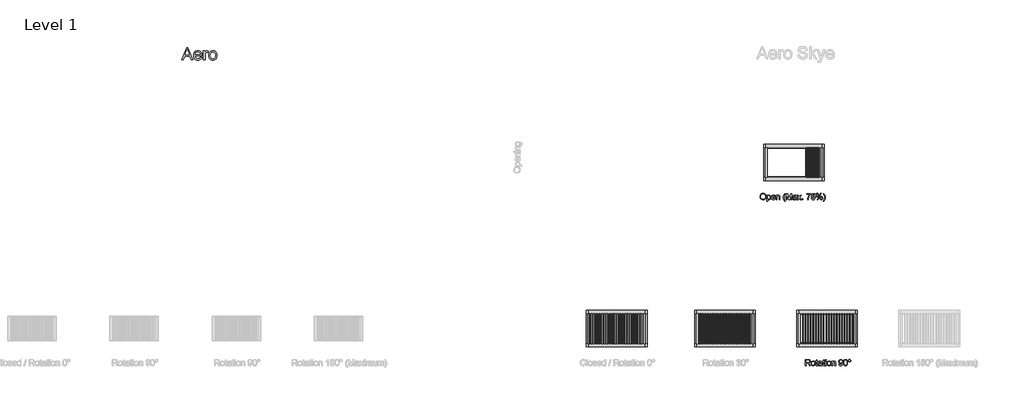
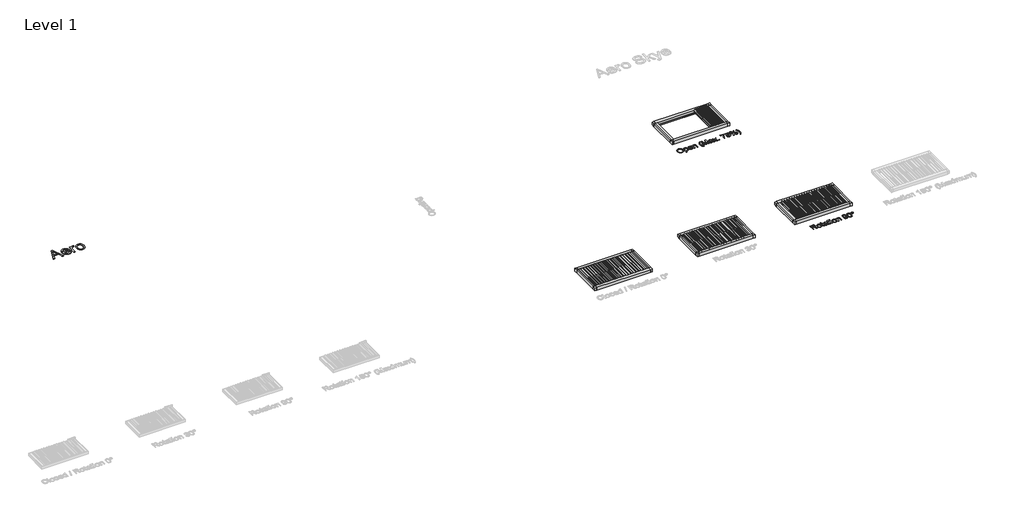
# One storey, part 11 of 12: 7 proxies.
"""IFC4 building model written with IfcOpenShell, lengths in millimetres."""

from ifc_helpers import new_model, si_unit, origin, origin_with_axes, place, context, project, spatial, polyline, outline, extrude, transform, mapped, element, save
from components import generic_models_02a216a0, generic_models_7025a045, generic_models_e1cb7084, generic_models_4a002583

model = new_model("IFC4")

# Units and contexts
model_context = context("Model", 3, world=origin())
ifc_project = project(units=[si_unit("LENGTHUNIT", "METRE", prefix="MILLI")], contexts=[model_context])

# Site, building, storey
site = spatial("IfcSite", under=ifc_project)
building = spatial("IfcBuilding", under=site)
storey = spatial("IfcBuildingStorey", under=building, Name="Level 1", Elevation=0.0)

# Proxies
placement = place(None, origin())
generic_models_shape = generic_models_02a216a0(model_context)
element("IfcBuildingElementProxy", 1, Name="Renson_Aero_Skye_Patio covers : Aero Skye - Single", ObjectType="Renson_Aero_Skye_Patio covers : Aero Skye - Single", at=placement, inside=storey, context=model_context, shape_type="MappedRepresentation", body=[
    mapped(generic_models_shape, transform((38893.1736148, 17701.5921629, 0.0), x_axis=(1.0, 0.0, 0.0), y_axis=(0.0, 1.0, 0.0), z_axis=(0.0, 0.0, 1.0))),
])
generic_models_2_shape = generic_models_7025a045(model_context)
element("IfcBuildingElementProxy", 2, Name="Renson_Aero_Skye_Patio covers : Aero Skye - Single", ObjectType="Renson_Aero_Skye_Patio covers : Aero Skye - Single", at=placement, inside=storey, context=model_context, shape_type="MappedRepresentation", body=[
    mapped(generic_models_2_shape, transform((53492.8188641, 31383.668518, 0.0), x_axis=(1.0, 0.0, 0.0), y_axis=(0.0, 1.0, 0.0), z_axis=(0.0, 0.0, 1.0))),
])
generic_models_3_shape = generic_models_e1cb7084(model_context)
element("IfcBuildingElementProxy", 3, Name="Renson_Aero_Skye_Patio covers : Aero Skye - Single", ObjectType="Renson_Aero_Skye_Patio covers : Aero Skye - Single", at=placement, inside=storey, context=model_context, shape_type="MappedRepresentation", body=[
    mapped(generic_models_3_shape, transform((47813.516609, 17701.5921629, 0.0), x_axis=(1.0, 0.0, 0.0), y_axis=(0.0, 1.0, 0.0), z_axis=(0.0, 0.0, 1.0))),
])
generic_models_4_shape = generic_models_4a002583(model_context)
element("IfcBuildingElementProxy", 4, Name="Renson_Aero_Skye_Patio covers : Aero Skye - Single", ObjectType="Renson_Aero_Skye_Patio covers : Aero Skye - Single", at=placement, inside=storey, context=model_context, shape_type="MappedRepresentation", body=[
    mapped(generic_models_4_shape, transform((56233.8596032, 17701.5921629, 0.0), x_axis=(1.0, 0.0, 0.0), y_axis=(0.0, 1.0, 0.0), z_axis=(0.0, 0.0, 1.0))),
])
element("IfcBuildingElementProxy", 5, Name="1000mm Arial", ObjectType="1000mm Arial", at=placement, inside=storey, context=model_context, shape_type="SweptSolid", body=[
    extrude(outline(polyline([(3038.1508384, 39841.8832107), (3439.1422131, 40846.4463122), (3546.0732464, 40846.4463122), (3947.0646211, 39841.8832107), (3814.3818482, 39841.8832107), (3699.3574111, 40155.8091799), (3285.6127938, 40155.8091799), (3170.8336113, 39841.8832107), (3038.1508384, 39841.8832107)]), holes=[polyline([(3331.7206706, 40281.3795676), (3653.494789, 40281.3795676), (3562.9958182, 40528.3510137), (3492.6077298, 40720.8759245), (3430.0677906, 40549.9334241), (3331.7206706, 40281.3795676)])]), origin_with_axes(), (0.0, 0.0, 1.0), 5.0),
    extrude(outline(polyline([(4582.0289448, 40061.6313891), (4705.1467859, 40045.9350907), (4686.269841, 39996.6235749), (4660.7863486, 39953.1675142), (4628.6963088, 39915.5669086), (4589.9997214, 39883.8217581), (4545.0951254, 39858.606513), (4494.3810595, 39840.5956237), (4437.8575238, 39829.7890901), (4375.5245182, 39826.1869122), (4335.5058549, 39827.7408304), (4297.6101773, 39832.4025851), (4261.8374854, 39840.1721762), (4228.1877791, 39851.0496037), (4196.6610586, 39865.0348677), (4167.2573237, 39882.1279681), (4139.9765745, 39902.328905), (4114.8188109, 39925.6376782), (4092.2285572, 39951.7515517), (4072.6503373, 39980.3677892), (4056.0841512, 40011.4863907), (4042.5299989, 40045.1073562), (4031.9878805, 40081.2306856), (4024.4577959, 40119.8563791), (4019.9397451, 40160.9844365), (4018.4337282, 40204.6148579), (4019.9550735, 40249.7302197), (4024.5191096, 40292.2474149), (4032.1258362, 40332.1664434), (4042.7752536, 40369.4873054), (4056.4673616, 40404.2100008), (4073.2021602, 40436.3345296), (4092.9796496, 40465.8608918), (4115.7998296, 40492.7890875), (4141.0457315, 40516.8163803), (4168.1003866, 40537.6400341), (4196.9637948, 40555.2600488), (4227.6359561, 40569.6764245), (4260.1168706, 40580.8891611), (4294.4065383, 40588.8982587), (4330.504959, 40593.7037173), (4368.412133, 40595.3055368), (4405.0796212, 40593.7075494), (4440.0341589, 40588.9135871), (4473.2757461, 40580.92365), (4504.8043827, 40569.7377381), (4534.6200687, 40555.3558514), (4562.7228043, 40537.7779898), (4589.1125893, 40517.0041534), (4613.7894237, 40493.0343421), (4636.1210105, 40466.1674602), (4655.4750523, 40436.7024116), (4671.8515493, 40404.6391965), (4685.2505013, 40369.9778148), (4695.6719084, 40332.7182664), (4703.1157707, 40292.8605515), (4709.0708605, 40205.3506219), (4708.3350965, 40171.5054784), (4144.0041159, 40171.5054784), (4151.2774495, 40121.3968849), (4165.7398104, 40077.5116286), (4187.3911987, 40039.8497093), (4216.2316143, 40008.4111272), (4250.6669019, 39983.6250777), (4289.1029062, 39965.9207567), (4331.5396272, 39955.2981641), (4377.9770648, 39951.7572999), (4412.7112565, 39953.3974405), (4444.8089606, 39958.3178621), (4474.2701771, 39966.518565), (4501.0949059, 39977.9995489), (4525.2831471, 39993.0673823), (4546.8349006, 40012.0286334), (4565.7501665, 40034.8833024), (4582.0289448, 40061.6313891)]), holes=[polyline([(4144.0041159, 40297.075866), (4583.5004728, 40297.075866), (4577.0472095, 40332.6071354), (4566.5165874, 40363.4172525), (4551.9086065, 40389.5062173), (4533.2232668, 40410.8740299), (4498.9795844, 40436.6257695), (4460.0147498, 40455.0198693), (4416.3287628, 40466.0563292), (4367.9216236, 40469.7351491), (4323.76812, 40466.7997574), (4283.2781079, 40457.9935821), (4246.4515873, 40443.3166233), (4213.2885583, 40422.7688811), (4185.4598182, 40397.3007171), (4164.6361645, 40367.8624933), (4150.817597, 40334.4542096), (4144.0041159, 40297.075866)])]), origin_with_axes(), (0.0, 0.0, 1.0), 5.0),
    extrude(outline(polyline([(4834.6412482, 39841.8832107), (4834.6412482, 40579.6092383), (4944.5153374, 40579.6092383), (4944.5153374, 40470.4709131), (4985.1049842, 40533.7466163), (5004.2041911, 40555.635595), (5022.5063204, 40571.0253251), (5060.0302839, 40589.2354839), (5100.9878127, 40595.3055368), (5132.1351549, 40592.883647), (5163.5277519, 40585.6179776), (5195.1656035, 40573.5085286), (5227.0487097, 40556.5553), (5185.1101623, 40443.9834094), (5140.9643228, 40463.2972142), (5118.8914031, 40468.1256654), (5096.8184834, 40469.7351491), (5077.5736565, 40468.186979), (5059.3251767, 40463.5424689), (5042.073044, 40455.8016185), (5025.8172583, 40444.9644281), (5011.1709564, 40431.3834511), (4998.7472749, 40415.4112412), (4980.5677729, 40376.2931223), (4965.3006701, 40306.1502886), (4960.2116359, 40229.6308336), (4960.2116359, 39841.8832107), (4834.6412482, 39841.8832107)])), origin_with_axes(), (0.0, 0.0, 1.0), 5.0),
    extrude(outline(polyline([(5274.1376051, 40210.7462245), (5275.8352272, 40260.1688713), (5280.9280936, 40306.2882443), (5289.4162042, 40349.1043436), (5301.2995591, 40388.6171692), (5316.5781582, 40424.826721), (5335.2520015, 40457.732999), (5357.3210891, 40487.3360033), (5382.785421, 40513.6357339), (5430.6407372, 40549.3662726), (5483.4624603, 40574.8880861), (5541.2505904, 40590.2011741), (5604.0051274, 40595.3055368), (5639.4731671, 40593.7516186), (5673.2819056, 40589.0898639), (5705.4313431, 40581.3202728), (5735.9214795, 40570.4428453), (5764.7523148, 40556.4575813), (5791.9238491, 40539.3644809), (5817.4360822, 40519.1635441), (5841.2890143, 40495.8547708), (5862.8733408, 40469.806043), (5881.579757, 40441.3852429), (5897.408263, 40410.5923702), (5910.3588589, 40377.4274252), (5920.4315446, 40341.8904076), (5927.6263201, 40303.9813177), (5933.3821404, 40221.0469204), (5930.8376233, 40153.8318142), (5923.2040719, 40094.1889457), (5910.4814862, 40042.118315), (5892.6698663, 39997.619922), (5869.9914741, 39959.1839177), (5842.6685718, 39925.3004531), (5810.7011593, 39895.9695282), (5774.0892365, 39871.191143), (5734.2583463, 39851.501792), (5692.6340314, 39837.4379699), (5649.2162918, 39828.9996766), (5604.0051274, 39826.1869122), (5567.9776006, 39827.7350823), (5533.7166737, 39832.3795925), (5501.2223469, 39840.1204428), (5470.49462, 39850.9576332), (5441.5334931, 39864.8911638), (5414.3389663, 39881.9210345), (5388.9110394, 39902.0472453), (5365.2497126, 39925.2697962), (5343.8953124, 39951.4047463), (5325.3881655, 39980.2681545), (5309.7282721, 40011.8600209), (5296.915632, 40046.1803453), (5286.9502452, 40083.2291279), (5279.8321118, 40123.0063687), (5274.1376051, 40210.7462245)]), holes=[polyline([(5399.7079928, 40210.9914792), (5403.3408275, 40150.0840163), (5414.2393316, 40097.3465995), (5432.4035051, 40052.7792286), (5457.833348, 40016.3819037), (5488.7660924, 39988.1086395), (5523.4389705, 39967.9134509), (5561.8519821, 39955.7963376), (5604.0051274, 39951.7572999), (5645.9436749, 39955.8193303), (5684.2034024, 39968.0054214), (5718.7843099, 39988.3155732), (5749.6863975, 40016.7497857), (5775.1162404, 40053.5073284), (5793.2804139, 40098.7874706), (5804.1789181, 40152.5902124), (5807.8117528, 40214.9155538), (5804.1559254, 40273.8916361), (5793.1884434, 40325.2494955), (5774.9093068, 40368.9891319), (5749.3185155, 40405.1105453), (5718.3014648, 40433.3838095), (5683.7435499, 40453.5789982), (5645.6447708, 40465.6961114), (5604.0051274, 40469.7351491), (5561.8519821, 40465.7114398), (5523.4389705, 40453.6403118), (5488.7660924, 40433.5217652), (5457.833348, 40405.3558), (5432.4035051, 40369.065774), (5414.2393316, 40324.5750452), (5403.3408275, 40271.8836136), (5399.7079928, 40210.9914792)])]), origin_with_axes(), (0.0, 0.0, 1.0), 5.0),
])
element("IfcBuildingElementProxy", 6, Name="500mm Arial", ObjectType="500mm Arial", at=placement, inside=storey, context=model_context, shape_type="SweptSolid", body=[
    extrude(outline(polyline([(50712.3756983, 28572.4025398), (50716.560356, 28631.3173085), (50729.1143291, 28683.4722455), (50750.0376176, 28728.8673509), (50779.3302215, 28767.5026246), (50815.237037, 28798.3510627), (50856.0029606, 28820.3856614), (50901.6279922, 28833.6064206), (50952.1121319, 28838.0133403), (50985.903626, 28835.9440041), (51017.9936658, 28829.7359954), (51048.3822515, 28819.3893143), (51077.0693829, 28804.9039607), (51103.2503182, 28786.7167946), (51126.1203156, 28765.2646758), (51145.679375, 28740.5476042), (51161.9274964, 28712.56558), (51174.6960674, 28681.9547323), (51183.8164752, 28649.3511905), (51189.2887198, 28614.7549545), (51191.1128014, 28578.1660244), (51189.1929172, 28541.0942492), (51183.4332647, 28506.0304965), (51173.8338439, 28472.9747664), (51160.3946548, 28441.9270588), (51143.433762, 28413.7074441), (51123.2692301, 28389.1359925), (51099.9010592, 28368.2127041), (51073.3292493, 28350.9375787), (51044.5999647, 28337.4179154), (51014.75937, 28327.761013), (50983.807465, 28321.9668716), (50951.7442499, 28320.0354911), (50917.3626117, 28322.1699731), (50884.8510404, 28328.5734191), (50854.2095359, 28339.245829), (50825.4380982, 28354.187203), (50799.2878197, 28372.8188932), (50776.5097928, 28394.562252), (50757.1040176, 28419.4172793), (50741.070494, 28447.3839751), (50728.5165209, 28477.339533), (50719.5493972, 28508.1611464), (50714.1691231, 28539.8488153), (50712.3756983, 28572.4025398)]), holes=[polyline([(50775.1608922, 28571.7894031), (50778.2993855, 28530.1650882), (50787.7148653, 28493.2159403), (50803.4073316, 28460.9419595), (50825.3767845, 28433.3431456), (50852.0827181, 28411.2395691), (50881.9846265, 28395.4513001), (50915.0825098, 28385.9783387), (50951.3763679, 28382.8206849), (50988.2910268, 28386.0089956), (51021.7797847, 28395.5739274), (51051.8426415, 28411.5154806), (51078.4795972, 28433.8336549), (51100.2881017, 28462.0149486), (51115.865605, 28495.5458596), (51125.2121069, 28534.426388), (51128.3276076, 28578.6565337), (51122.9933186, 28634.2373718), (51106.9904518, 28682.276629), (51095.0917685, 28703.1654286), (51080.7328744, 28721.5633604), (51063.9137695, 28737.4704246), (51044.6344536, 28750.8866211), (51023.4927352, 28761.5360385), (51001.0864225, 28769.1427651), (50977.4155153, 28773.7068011), (50952.4800139, 28775.2281465), (50917.446918, 28772.2965868), (50884.9430109, 28763.5019079), (50854.9682925, 28748.8441096), (50827.5227628, 28728.3231921), (50804.6144444, 28700.9504724), (50788.2513598, 28665.7372677), (50778.4335091, 28622.6835779), (50775.1608922, 28571.7894031)])]), origin_with_axes(), (0.0, 0.0, 1.0), 5.0),
    extrude(outline(polyline([(51269.5942937, 28186.6169542), (51269.5942937, 28696.7466542), (51332.3794875, 28696.7466542), (51332.3794875, 28635.1877336), (51352.8582519, 28665.5533267), (51375.789563, 28687.243036), (51402.5223213, 28700.2568615), (51434.4054275, 28704.5948034), (51456.3020705, 28703.0772902), (51476.8651411, 28698.5247505), (51496.0946396, 28690.9371843), (51513.9905658, 28680.3145917), (51530.1620452, 28666.9328841), (51544.2182031, 28651.0679731), (51565.9845545, 28611.8885406), (51579.1363358, 28565.6273797), (51583.5202629, 28515.1355759), (51578.5691844, 28461.440133), (51563.7159488, 28413.4162042), (51552.6948174, 28392.1403622), (51539.4357372, 28373.5010077), (51523.9387081, 28357.4981409), (51506.2037303, 28344.1317618), (51467.4994787, 28326.0595588), (51426.802533, 28320.0354911), (51397.9391248, 28324.0668646), (51372.1720567, 28336.1609852), (51350.1144654, 28354.4171292), (51332.3794875, 28376.934573), (51332.3794875, 28186.6169542), (51269.5942937, 28186.6169542)]), holes=[polyline([(51332.3794875, 28509.3720913), (51334.0771097, 28479.1137972), (51339.169976, 28453.086146), (51347.6580867, 28431.2891378), (51359.5414415, 28413.7227725), (51373.8466862, 28400.2031092), (51389.6004662, 28390.5462068), (51406.8027816, 28384.7520654), (51425.4536323, 28382.8206849), (51444.3727303, 28384.8210433), (51461.8892783, 28390.8221183), (51478.0032761, 28400.8239101), (51492.7147238, 28414.8264185), (51504.9736248, 28433.0289131), (51513.7299827, 28455.6306632), (51518.9837975, 28482.6316688), (51520.7350691, 28514.0319299), (51519.0259506, 28544.0296409), (51513.8985953, 28570.0113068), (51505.3530032, 28591.9769276), (51493.3891741, 28609.9265033), (51479.0494405, 28623.8753623), (51463.3761347, 28633.838833), (51446.3692566, 28639.8169154), (51428.0288063, 28641.8096096), (51409.7458375, 28639.690456), (51392.5435222, 28633.3329952), (51376.4218602, 28622.7372274), (51361.3808515, 28607.9031523), (51348.6927548, 28589.0300396), (51339.6298285, 28566.3171585), (51334.1920728, 28539.764509), (51332.3794875, 28509.3720913)])]), origin_with_axes(), (0.0, 0.0, 1.0), 5.0),
    extrude(outline(polyline([(51912.4067666, 28437.7577296), (51973.9656871, 28429.9095803), (51964.5272147, 28405.2538224), (51951.7854685, 28383.5257921), (51935.7404486, 28364.7254893), (51916.3921549, 28348.8529141), (51893.9398569, 28336.2452915), (51868.5828239, 28327.2398468), (51840.3210561, 28321.83658), (51809.1545533, 28320.0354911), (51770.1973828, 28323.1433275), (51735.4861838, 28332.4668369), (51705.020956, 28348.006019), (51678.8016997, 28369.7608741), (51657.7174628, 28397.1259296), (51642.6572936, 28429.4957131), (51633.6211921, 28466.8702245), (51630.6091583, 28509.249464), (51633.651849, 28553.0657424), (51642.779921, 28591.6856877), (51657.9933743, 28625.1092998), (51679.292209, 28653.3365787), (51705.4424875, 28675.762052), (51735.2102723, 28691.7802472), (51768.5955633, 28701.3911644), (51805.5983607, 28704.5948034), (51841.4093736, 28701.3988286), (51873.7944855, 28691.8109041), (51902.7536963, 28675.8310299), (51928.2870061, 28653.4592061), (51949.1298204, 28625.2932408), (51964.0175448, 28591.9309424), (51972.9501795, 28553.3723108), (51975.9277244, 28509.617346), (51975.5598424, 28492.6947742), (51693.3943521, 28492.6947742), (51697.0310189, 28467.6404775), (51704.2621994, 28445.6978493), (51715.0878935, 28426.8668897), (51729.5081013, 28411.1475986), (51746.7257451, 28398.7545739), (51765.9437473, 28389.9024134), (51787.1621078, 28384.591117), (51810.3808266, 28382.8206849), (51843.7967745, 28386.1009661), (51871.9397471, 28395.9418094), (51894.8097445, 28412.9563517), (51912.4067666, 28437.7577296)]), holes=[polyline([(51693.3943521, 28555.479968), (51913.1425306, 28555.479968), (51904.6505879, 28588.6506612), (51888.0039276, 28612.3790499), (51870.8820864, 28625.2549198), (51851.3996691, 28634.4519696), (51829.5566756, 28639.9701996), (51805.353106, 28641.8096096), (51763.0313481, 28635.938826), (51744.6180879, 28628.6003467), (51728.0365734, 28618.3264755), (51714.1222033, 28605.5923935), (51703.7103764, 28590.8732816), (51696.8010927, 28574.1691398), (51693.3943521, 28555.479968)])]), origin_with_axes(), (0.0, 0.0, 1.0), 5.0),
    extrude(outline(polyline([(52038.7129183, 28327.8836403), (52038.7129183, 28696.7466542), (52101.4981121, 28696.7466542), (52101.4981121, 28645.2431748), (52123.3104488, 28671.2095123), (52149.5067125, 28689.7568963), (52180.0869033, 28700.8853266), (52215.0510213, 28704.5948034), (52245.9990941, 28701.6057622), (52274.3413362, 28692.6386386), (52297.9777544, 28678.8124069), (52314.8083557, 28661.2460416), (52326.2280259, 28639.985528), (52333.6316511, 28615.0768512), (52336.942589, 28554.376322), (52336.942589, 28327.8836403), (52274.1573952, 28327.8836403), (52274.1573952, 28545.9150361), (52272.3486421, 28578.3806222), (52266.9223826, 28601.4652174), (52256.9129267, 28618.0045788), (52241.354584, 28630.8344634), (52221.4123141, 28639.065823), (52198.2510769, 28641.8096096), (52179.1863589, 28640.2691037), (52161.4782058, 28635.6475861), (52145.1266175, 28627.9450569), (52130.1315941, 28617.1615159), (52117.6044457, 28602.0706899), (52108.6564826, 28581.4463055), (52103.2877047, 28555.2883628), (52101.4981121, 28523.5968618), (52101.4981121, 28327.8836403), (52038.7129183, 28327.8836403)])), origin_with_axes(), (0.0, 0.0, 1.0), 5.0),
    extrude(outline(polyline([(52745.046349, 28186.6169542), (52719.7008124, 28219.4121012), (52696.3939552, 28254.8897211), (52655.8962789, 28333.8923796), (52639.9623899, 28376.4593921), (52628.5810407, 28419.7928255), (52621.7522312, 28463.8926796), (52619.4759613, 28508.7589546), (52621.1774156, 28548.191306), (52626.2817782, 28586.7805944), (52634.7890494, 28624.52682), (52646.699229, 28661.4299826), (52664.8020888, 28703.7517405), (52687.2275621, 28745.9815279), (52713.9756488, 28788.1193447), (52745.046349, 28830.1651911), (52792.1352444, 28830.1651911), (52733.3967525, 28730.7144251), (52713.3471838, 28683.5029023), (52698.080081, 28634.3293423), (52686.2158866, 28571.5134916), (52682.2611552, 28508.3910726), (52683.9779378, 28468.1424831), (52689.1282858, 28427.9015578), (52697.712199, 28387.6682967), (52709.7296775, 28347.4426997), (52744.0653304, 28267.0144985), (52792.1352444, 28186.6169542), (52745.046349, 28186.6169542)])), origin_with_axes(), (0.0, 0.0, 1.0), 5.0),
    extrude(outline(polyline([(52862.7685875, 28327.8836403), (52862.7685875, 28830.1651911), (52970.8032667, 28830.1651911), (53073.5649707, 28476.1400844), (53094.2889898, 28402.1958034), (53116.7297915, 28482.271451), (53217.7747128, 28830.1651911), (53325.8093921, 28830.1651911), (53325.8093921, 28327.8836403), (53263.0241982, 28327.8836403), (53263.0241982, 28767.3799972), (53136.8406739, 28327.8836403), (53051.7373057, 28327.8836403), (52925.5537813, 28767.3799972), (52925.5537813, 28327.8836403), (52862.7685875, 28327.8836403)])), origin_with_axes(), (0.0, 0.0, 1.0), 5.0),
    extrude(outline(polyline([(53663.279809, 28374.9725357), (53633.282098, 28349.2514529), (53602.3953388, 28332.4208516), (53569.9144243, 28323.1318312), (53535.1342473, 28320.0354911), (53507.1790478, 28321.8978937), (53482.6650778, 28327.4851015), (53461.5923372, 28336.7971145), (53443.9608262, 28349.8339327), (53430.0387919, 28365.7678216), (53420.0944818, 28383.7710468), (53414.1278956, 28403.8436081), (53412.1390336, 28425.9855057), (53415.1434032, 28452.0131569), (53424.1565121, 28475.6495751), (53438.0593859, 28495.8830848), (53455.73305, 28511.7020106), (53476.5030543, 28523.6581754), (53499.6949485, 28532.3034023), (53554.0188564, 28541.7457069), (53618.2142646, 28551.6785207), (53662.911927, 28563.3281172), (53663.279809, 28577.3076331), (53658.9571955, 28605.3279784), (53645.9893552, 28623.6607645), (53632.914216, 28631.6008842), (53616.9879913, 28637.2723983), (53576.5822855, 28641.8096096), (53539.1809493, 28638.7899115), (53513.0613276, 28629.7308174), (53495.2497077, 28612.9768582), (53482.7723767, 28586.8725649), (53419.9871828, 28594.7207142), (53430.8856869, 28629.0563671), (53447.1491368, 28656.03438), (53470.2950457, 28676.6664286), (53501.8409268, 28691.9641882), (53540.422551, 28701.4371496), (53584.6756893, 28704.5948034), (53627.1200745, 28701.8050316), (53660.7659487, 28693.4357162), (53686.1344779, 28680.8510863), (53703.7468285, 28665.4153709), (53715.4270818, 28646.3314924), (53722.9993195, 28622.8023731), (53726.0650028, 28567.8653285), (53726.0650028, 28489.7517182), (53729.2533135, 28380.6747066), (53733.9744657, 28353.7120221), (53741.7613013, 28327.8836403), (53678.9761074, 28327.8836403), (53668.9206662, 28349.7113054), (53663.279809, 28374.9725357)]), holes=[polyline([(53663.279809, 28500.5429234), (53621.0960069, 28490.0889434), (53561.989633, 28481.2904323), (53507.9722934, 28471.1123638), (53493.9161355, 28464.1532627), (53483.5081407, 28454.557674), (53477.0702058, 28443.0613617), (53474.9242275, 28430.4000897), (53479.5993945, 28411.7300784), (53493.6248955, 28396.4323188), (53516.6941623, 28386.2235934), (53548.5006265, 28382.8206849), (53582.2231427, 28386.576147), (53612.0215843, 28397.8425331), (53636.1791687, 28414.4432081), (53652.9791131, 28434.2015369), (53660.4287235, 28454.557674), (53662.911927, 28482.7619603), (53663.279809, 28500.5429234)])]), origin_with_axes(), (0.0, 0.0, 1.0), 5.0),
    extrude(outline(polyline([(53773.1538982, 28327.8836403), (53907.3081991, 28513.2961659), (53781.0020474, 28696.7466542), (53856.5404838, 28696.7466542), (53917.4862677, 28608.4549753), (53945.9358086, 28566.7616825), (53970.5839023, 28600.8520808), (54039.990972, 28696.7466542), (54115.5294084, 28696.7466542), (53982.8466355, 28513.2961659), (54110.6243151, 28327.8836403), (54035.0858788, 28327.8836403), (53958.1985418, 28439.3518849), (53944.0963986, 28459.7080219), (53848.6923346, 28327.8836403), (53773.1538982, 28327.8836403)])), origin_with_axes(), (0.0, 0.0, 1.0), 5.0),
    extrude(outline(polyline([(54181.2576582, 28327.8836403), (54181.2576582, 28390.6688342), (54244.042852, 28390.6688342), (54244.042852, 28327.8836403), (54181.2576582, 28327.8836403)])), origin_with_axes(), (0.0, 0.0, 1.0), 5.0),
    extrude(outline(polyline([(54542.2725228, 28759.531848), (54542.2725228, 28822.3170419), (54871.8947905, 28822.3170419), (54871.8947905, 28771.5493265), (54824.913194, 28712.090399), (54778.39145, 28636.4753206), (54737.3572792, 28551.6018787), (54706.838402, 28464.3678605), (54691.8778675, 28399.0994632), (54683.5392089, 28327.8836403), (54620.7540151, 28327.8836403), (54627.5445036, 28392.6002147), (54645.7086771, 28469.5182085), (54674.7560263, 28551.0500557), (54714.1960419, 28629.60819), (54760.2426049, 28700.6247435), (54809.1095966, 28759.531848), (54542.2725228, 28759.531848)])), origin_with_axes(), (0.0, 0.0, 1.0), 5.0),
    extrude(outline(polyline([(54926.8318351, 28461.3021773), (54989.6170289, 28469.1503265), (55001.1439981, 28431.4577504), (55010.1264502, 28416.6236754), (55021.2548805, 28404.464409), (55034.5062965, 28394.9952797), (55049.8577056, 28388.231616), (55086.860503, 28382.8206849), (55110.7728327, 28384.7022481), (55131.8647337, 28390.3469374), (55150.1362062, 28399.754753), (55165.58725, 28412.9256949), (55177.8729758, 28429.2083053), (55186.6484942, 28447.9511265), (55191.9138052, 28469.1541586), (55193.6689089, 28492.8174015), (55192.0249363, 28515.1815611), (55187.0930183, 28535.0625173), (55178.8731549, 28552.46027), (55167.3653463, 28567.3748192), (55152.5312712, 28579.3386482), (55134.3326088, 28587.8842404), (55112.7693589, 28593.0115957), (55087.8415216, 28594.7207142), (55057.3839581, 28591.992256), (55032.720536, 28583.8068816), (55013.0235209, 28571.268237), (54997.4651782, 28555.479968), (54934.6799843, 28563.3281172), (54989.6170289, 28822.3170419), (55232.9096551, 28822.3170419), (55232.9096551, 28759.531848), (55040.3847443, 28759.531848), (55013.5293586, 28621.2082178), (55035.6865846, 28637.0884573), (55058.3803052, 28648.4314855), (55081.6105203, 28655.2373024), (55105.3772301, 28657.505908), (55135.9535888, 28654.6931436), (55164.0390799, 28646.2548503), (55189.6337033, 28632.1910282), (55212.737459, 28612.5016773), (55231.8634906, 28588.3900782), (55245.5249418, 28561.0595116), (55253.7218125, 28530.5099776), (55256.4541028, 28496.7414761), (55253.9938919, 28464.2145764), (55246.6132594, 28433.9562823), (55234.3122052, 28405.9665938), (55217.0907293, 28380.245511), (55191.0017645, 28353.9036273), (55160.5595294, 28335.0879961), (55125.764024, 28323.7986173), (55086.6152483, 28320.0354911), (55054.214808, 28322.4535488), (55024.9490289, 28329.7077219), (54998.8179109, 28341.7980104), (54975.8214541, 28358.7244143), (54956.6877583, 28379.6438706), (54942.1449231, 28403.7133166), (54932.1929487, 28430.9327521), (54926.8318351, 28461.3021773)])), origin_with_axes(), (0.0, 0.0, 1.0), 5.0),
    extrude(outline(polyline([(55421.3878639, 28320.0354911), (55699.751907, 28838.0133403), (55752.1137776, 28838.0133403), (55473.7497346, 28320.0354911), (55421.3878639, 28320.0354911)])), origin_with_axes(), (0.0, 0.0, 1.0), 5.0),
    extrude(outline(polyline([(55648.8615643, 28457.0102206), (55650.4672159, 28483.1873239), (55655.2841708, 28507.2720982), (55663.3124289, 28529.2645438), (55674.5519903, 28549.1646604), (55688.8572349, 28565.6618687), (55706.082543, 28577.4455888), (55726.2279143, 28584.5158209), (55749.293349, 28586.8725649), (55770.714811, 28584.7534114), (55790.2202209, 28578.3959506), (55807.8095788, 28567.8001828), (55823.4828847, 28552.9661077), (55836.3587545, 28534.0240171), (55845.5558044, 28511.1042023), (55851.0740343, 28484.2066636), (55852.9134443, 28453.3314007), (55851.0548738, 28423.1114276), (55845.4791623, 28396.5856029), (55836.1863098, 28373.7539266), (55823.1763163, 28354.6163986), (55807.4225363, 28339.4872516), (55789.8983242, 28328.680718), (55770.60368, 28322.1967978), (55749.5386036, 28320.0354911), (55728.8567377, 28322.1776373), (55709.9759607, 28328.6040759), (55692.8962727, 28339.3148069), (55677.6176736, 28354.3098303), (55665.0368758, 28373.5814819), (55656.0505916, 28397.1220975), (55650.6588211, 28424.9316771), (55648.8615643, 28457.0102206)]), holes=[polyline([(55750.8875043, 28539.7836696), (55729.1518097, 28535.0318605), (55711.5241308, 28520.7764331), (55704.7106497, 28509.287785), (55699.8438774, 28493.829077), (55695.9504597, 28451.0014814), (55699.8898627, 28411.8527057), (55704.8141165, 28397.3137027), (55711.7080718, 28386.1316229), (55729.2897655, 28371.8761956), (55750.5196223, 28367.1243865), (55772.5312283, 28371.8761956), (55790.2508778, 28386.1316229), (55797.0643589, 28397.5972784), (55801.9311311, 28412.9870086), (55805.8245489, 28455.5386927), (55801.8851459, 28495.1933061), (55796.9608921, 28509.8127833), (55790.0669368, 28520.9603741), (55772.3932726, 28535.0778457), (55750.8875043, 28539.7836696)])]), origin_with_axes(), (0.0, 0.0, 1.0), 5.0),
    extrude(outline(polyline([(55319.2392966, 28708.150996), (55320.8449482, 28734.1786472), (55325.6619031, 28758.1829474), (55333.6901612, 28780.1638966), (55344.9297226, 28800.1214948), (55359.2196389, 28816.6991772), (55376.3989616, 28828.5403789), (55396.4676909, 28835.6451), (55419.4258266, 28838.0133403), (55440.9545876, 28835.8941867), (55460.5366396, 28829.536726), (55478.1719827, 28818.9409581), (55493.860617, 28804.1068831), (55506.7364868, 28785.1647924), (55515.9335367, 28762.2449777), (55521.4517666, 28735.3474389), (55523.2911766, 28704.4721761), (55521.428774, 28674.252203), (55515.8415662, 28647.7263783), (55506.5295532, 28624.894702), (55493.492735, 28605.757174), (55477.7351229, 28590.628027), (55460.2607281, 28579.8214934), (55441.0695507, 28573.3375732), (55420.1615906, 28571.1762665), (55399.4222431, 28573.3069164), (55380.4916488, 28579.698866), (55363.3698076, 28590.3521155), (55348.0567196, 28605.2666647), (55335.449097, 28624.4808347), (55326.4436523, 28648.0329466), (55321.0403855, 28675.9230004), (55319.2392966, 28708.150996)]), holes=[polyline([(55421.1426093, 28790.9244449), (55399.5755273, 28786.1726358), (55381.9631768, 28771.9172085), (55375.1228709, 28760.4285604), (55370.2369382, 28744.9698524), (55366.328192, 28702.1422568), (55370.2829234, 28662.7635549), (55375.2263377, 28648.2130555), (55382.1471178, 28637.0884573), (55399.8054535, 28622.9709857), (55421.1426093, 28618.2651619), (55442.8936322, 28623.016971), (55460.5672964, 28637.2723983), (55467.4076023, 28648.7380538), (55472.293535, 28664.1277839), (55476.2022812, 28706.679468), (55472.2475498, 28746.3340814), (55467.3041355, 28760.9535586), (55460.3833554, 28772.1011495), (55442.663706, 28786.2186211), (55421.1426093, 28790.9244449)])]), origin_with_axes(), (0.0, 0.0, 1.0), 5.0),
    extrude(outline(polyline([(55962.7875335, 28186.6169542), (55915.6986381, 28186.6169542), (55963.7685522, 28267.0144985), (55998.104205, 28347.4426997), (56010.1216835, 28387.6682967), (56018.7055968, 28427.9015578), (56023.8559447, 28468.1424831), (56025.5727273, 28508.3910726), (56021.6179959, 28571.0536391), (56009.7538016, 28633.2256963), (55994.7626102, 28682.4912269), (55974.805012, 28729.7334064), (55915.6986381, 28830.1651911), (55962.7875335, 28830.1651911), (55993.8582337, 28788.1193447), (56020.6063204, 28745.9815279), (56043.0317937, 28703.7517405), (56061.1346535, 28661.4299826), (56073.0448331, 28624.52682), (56081.5521043, 28586.7805944), (56086.656467, 28548.191306), (56088.3579212, 28508.7589546), (56086.070155, 28463.8926796), (56079.2068566, 28419.7928255), (56067.7680258, 28376.4593921), (56051.7536627, 28333.8923796), (56011.2100011, 28254.8897211), (55962.7875335, 28186.6169542)])), origin_with_axes(), (0.0, 0.0, 1.0), 5.0),
])
element("IfcBuildingElementProxy", 7, Name="500mm Arial", ObjectType="500mm Arial", at=placement, inside=storey, context=model_context, shape_type="SweptSolid", body=[
    extrude(outline(polyline([(54435.3202558, 14645.8072853), (54435.3202558, 15148.088836), (54651.7574963, 15148.088836), (54709.9288368, 15144.701256), (54752.2505947, 15134.5385159), (54783.1833391, 15115.7765341), (54807.1876393, 15086.5912292), (54822.5926978, 15050.4008379), (54827.7277173, 15010.6235972), (54825.6008996, 14984.8258723), (54819.2204462, 14961.1434688), (54808.5863573, 14939.5763869), (54793.6986328, 14920.1246264), (54774.3656675, 14903.4089882), (54750.3958563, 14890.0502733), (54721.789199, 14880.0484815), (54688.5456958, 14873.403613), (54709.2390581, 14859.8839496), (54724.2302494, 14846.5482273), (54775.120592, 14781.9236235), (54858.8750596, 14645.8072853), (54785.9117972, 14645.8072853), (54720.5514294, 14749.9178899), (54673.3399067, 14818.8344504), (54655.7888699, 14838.9300043), (54640.1692135, 14851.3920069), (54610.3094582, 14863.3481718), (54573.8891407, 14865.5554637), (54498.1054497, 14865.5554637), (54498.1054497, 14645.8072853), (54435.3202558, 14645.8072853)]), holes=[polyline([(54498.1054497, 14928.3406576), (54638.6363718, 14928.3406576), (54678.9960924, 14930.563278), (54710.3120472, 14937.2311391), (54733.8871517, 14948.7887652), (54751.0243214, 14965.6806801), (54761.462973, 14986.1134592), (54764.9425235, 15008.2936779), (54763.2832224, 15024.3501941), (54758.3053192, 15038.919854), (54750.0088138, 15052.0026574), (54738.3937062, 15063.5986045), (54723.1917492, 15073.0945585), (54704.1346954, 15079.8773828), (54654.4552976, 15085.3036422), (54498.1054497, 15085.3036422), (54498.1054497, 14928.3406576)])]), origin_with_axes(), (0.0, 0.0, 1.0), 5.0),
    extrude(outline(polyline([(54914.0573589, 14830.2387922), (54917.4526031, 14878.0098021), (54927.6383359, 14919.1742645), (54944.6145571, 14953.7321795), (54968.3812668, 14981.6835469), (54992.3089249, 14999.5488163), (55018.7197865, 15012.309723), (55047.6138515, 15019.966267), (55078.9911201, 15022.5184484), (55113.6295092, 15019.4106119), (55144.9492961, 15010.0871026), (55172.9504809, 14994.5479204), (55197.6330635, 14972.7930653), (55217.7784348, 14945.5583014), (55232.1679858, 14913.5793925), (55240.8017164, 14876.8563388), (55243.6796266, 14835.3891401), (55238.5905923, 14771.9601528), (55232.2292995, 14745.9248374), (55223.3234895, 14723.6756409), (55211.9842934, 14704.4576388), (55198.3228422, 14687.5159065), (55182.339136, 14672.850444), (55164.0331746, 14660.4612514), (55123.3055721, 14643.5846649), (55078.9911201, 14637.9591361), (55043.8468932, 14641.0554762), (55012.2358663, 14650.3444966), (54984.1580395, 14665.8261972), (54959.6134126, 14687.5005781), (54939.6826391, 14714.9997572), (54925.4463723, 14747.9558526), (54916.9046122, 14786.3688643), (54914.0573589, 14830.2387922)]), holes=[polyline([(54976.8425527, 14830.3614195), (54978.6589701, 14799.9076881), (54984.1082221, 14773.5389797), (54993.1903089, 14751.2552943), (55005.9052303, 14733.0566318), (55021.3716026, 14718.9199997), (55038.7080416, 14708.8224054), (55057.9145474, 14702.7638488), (55078.9911201, 14700.7443299), (55099.9603938, 14702.7753451), (55119.0902575, 14708.8683906), (55136.3807113, 14719.0234665), (55151.8317551, 14733.2405728), (55164.5466766, 14751.6193442), (55173.6287633, 14774.2594153), (55179.0780154, 14801.1607862), (55180.8944327, 14832.3234568), (55179.0665191, 14861.811498), (55173.5827781, 14887.4904277), (55164.4432097, 14909.3602459), (55151.6478141, 14927.4209526), (55136.1392887, 14941.5575847), (55118.8603313, 14951.655179), (55099.8109417, 14957.7137356), (55078.9911201, 14959.7332545), (55057.9145474, 14957.7213998), (55038.7080416, 14951.6858359), (55021.3716026, 14941.6265626), (55005.9052303, 14927.5435799), (54993.1903089, 14909.3985669), (54984.1082221, 14887.1532025), (54978.6589701, 14860.8074867), (54976.8425527, 14830.3614195)])]), origin_with_axes(), (0.0, 0.0, 1.0), 5.0),
    extrude(outline(polyline([(55447.7315066, 14698.1691559), (55455.5796558, 14643.9678753), (55408.6133877, 14637.9591361), (55378.477721, 14640.5649669), (55356.0062624, 14648.3824593), (55340.126023, 14660.4305946), (55329.7640134, 14675.7283542), (55324.0618425, 14702.0012601), (55322.1611189, 14746.974834), (55322.1611189, 14951.8851053), (55275.0722235, 14951.8851053), (55275.0722235, 15014.6702991), (55322.1611189, 15014.6702991), (55322.1611189, 15104.3108786), (55384.9463127, 15141.2217055), (55384.9463127, 15014.6702991), (55447.7315066, 15014.6702991), (55447.7315066, 14951.8851053), (55384.9463127, 14951.8851053), (55384.9463127, 14748.8142439), (55388.2572507, 14716.4406284), (55398.9871422, 14704.9749728), (55420.3856116, 14700.7443299), (55447.7315066, 14698.1691559)])), origin_with_axes(), (0.0, 0.0, 1.0), 5.0),
    extrude(outline(polyline([(55745.9611773, 14692.8961807), (55715.9634663, 14667.1750978), (55685.0767071, 14650.3444966), (55652.5957926, 14641.0554762), (55617.8156157, 14637.9591361), (55589.8604161, 14639.8215387), (55565.3464461, 14645.4087465), (55544.2737056, 14654.7207595), (55526.6421945, 14667.7575777), (55512.7201603, 14683.6914666), (55502.7758501, 14701.6946917), (55496.809264, 14721.7672531), (55494.8204019, 14743.9091507), (55497.8247716, 14769.9368018), (55506.8378804, 14793.57322), (55520.7407542, 14813.8067298), (55538.4144184, 14829.6256555), (55559.1844227, 14841.5818204), (55582.3763168, 14850.2270473), (55636.7002247, 14859.6693518), (55700.8956329, 14869.6021657), (55745.5932953, 14881.2517622), (55745.9611773, 14895.231278), (55741.6385639, 14923.2516233), (55728.6707235, 14941.5844094), (55715.5955843, 14949.5245291), (55699.6693596, 14955.1960432), (55659.2636538, 14959.7332545), (55621.8623176, 14956.7135565), (55595.7426959, 14947.6544623), (55577.931076, 14930.9005031), (55565.453745, 14904.7962099), (55502.6685512, 14912.6443591), (55513.5670553, 14946.980012), (55529.8305051, 14973.958025), (55552.976414, 14994.5900735), (55584.5222951, 15009.8878332), (55623.1039193, 15019.3607946), (55667.3570577, 15022.5184484), (55709.8014429, 15019.7286766), (55743.447317, 15011.3593612), (55768.8158463, 14998.7747312), (55786.4281968, 14983.3390159), (55798.1084501, 14964.2551374), (55805.6806879, 14940.7260181), (55808.7463712, 14885.7889735), (55808.7463712, 14807.6753632), (55811.9346818, 14698.5983516), (55816.655834, 14671.635667), (55824.4426696, 14645.8072853), (55761.6574758, 14645.8072853), (55751.6020346, 14667.6349503), (55745.9611773, 14692.8961807)]), holes=[polyline([(55745.9611773, 14818.4665684), (55703.7773752, 14808.0125883), (55644.6710013, 14799.2140773), (55590.6536617, 14789.0360087), (55576.5975038, 14782.0769077), (55566.189509, 14772.481319), (55559.7515741, 14760.9850066), (55557.6055958, 14748.3237346), (55562.2807628, 14729.6537234), (55576.3062639, 14714.3559637), (55599.3755306, 14704.1472384), (55631.1819948, 14700.7443299), (55664.904511, 14704.4997919), (55694.7029526, 14715.766178), (55718.860537, 14732.3668531), (55735.6604814, 14752.1251819), (55743.1100918, 14772.481319), (55745.5932953, 14800.6856053), (55745.9611773, 14818.4665684)])]), origin_with_axes(), (0.0, 0.0, 1.0), 5.0),
    extrude(outline(polyline([(56028.4945496, 14698.1691559), (56036.3426988, 14643.9678753), (55989.3764308, 14637.9591361), (55959.240764, 14640.5649669), (55936.7693055, 14648.3824593), (55920.889066, 14660.4305946), (55910.5270565, 14675.7283542), (55904.8248856, 14702.0012601), (55902.9241619, 14746.974834), (55902.9241619, 14951.8851053), (55855.8352665, 14951.8851053), (55855.8352665, 15014.6702991), (55902.9241619, 15014.6702991), (55902.9241619, 15104.3108786), (55965.7093558, 15141.2217055), (55965.7093558, 15014.6702991), (56028.4945496, 15014.6702991), (56028.4945496, 14951.8851053), (55965.7093558, 14951.8851053), (55965.7093558, 14748.8142439), (55969.0202937, 14716.4406284), (55979.7501852, 14704.9749728), (56001.1486546, 14700.7443299), (56028.4945496, 14698.1691559)])), origin_with_axes(), (0.0, 0.0, 1.0), 5.0),
    extrude(outline(polyline([(56091.2797434, 15085.3036422), (56091.2797434, 15148.088836), (56154.0649373, 15148.088836), (56154.0649373, 15085.3036422), (56091.2797434, 15085.3036422)])), origin_with_axes(), (0.0, 0.0, 1.0), 5.0),
    extrude(outline(polyline([(56091.2797434, 14645.8072853), (56091.2797434, 15014.6702991), (56154.0649373, 15014.6702991), (56154.0649373, 14645.8072853), (56091.2797434, 14645.8072853)])), origin_with_axes(), (0.0, 0.0, 1.0), 5.0),
    extrude(outline(polyline([(56232.5464296, 14830.2387922), (56235.9416738, 14878.0098021), (56246.1274066, 14919.1742645), (56263.1036278, 14953.7321795), (56286.8703376, 14981.6835469), (56310.7979957, 14999.5488163), (56337.2088572, 15012.309723), (56366.1029223, 15019.966267), (56397.4801908, 15022.5184484), (56432.1185799, 15019.4106119), (56463.4383668, 15010.0871026), (56491.4395516, 14994.5479204), (56516.1221342, 14972.7930653), (56536.2675056, 14945.5583014), (56550.6570565, 14913.5793925), (56559.2907871, 14876.8563388), (56562.1686973, 14835.3891401), (56557.079663, 14771.9601528), (56550.7183702, 14745.9248374), (56541.8125602, 14723.6756409), (56530.4733641, 14704.4576388), (56516.811913, 14687.5159065), (56500.8282067, 14672.850444), (56482.5222453, 14660.4612514), (56441.7946428, 14643.5846649), (56397.4801908, 14637.9591361), (56362.3359639, 14641.0554762), (56330.7249371, 14650.3444966), (56302.6471102, 14665.8261972), (56278.1024833, 14687.5005781), (56258.1717098, 14714.9997572), (56243.935443, 14747.9558526), (56235.393683, 14786.3688643), (56232.5464296, 14830.2387922)]), holes=[polyline([(56295.3316234, 14830.3614195), (56297.1480408, 14799.9076881), (56302.5972928, 14773.5389797), (56311.6793796, 14751.2552943), (56324.3943011, 14733.0566318), (56339.8606733, 14718.9199997), (56357.1971123, 14708.8224054), (56376.4036181, 14702.7638488), (56397.4801908, 14700.7443299), (56418.4494645, 14702.7753451), (56437.5793282, 14708.8683906), (56454.869782, 14719.0234665), (56470.3208258, 14733.2405728), (56483.0357473, 14751.6193442), (56492.117834, 14774.2594153), (56497.5670861, 14801.1607862), (56499.3835034, 14832.3234568), (56497.5555898, 14861.811498), (56492.0718488, 14887.4904277), (56482.9322805, 14909.3602459), (56470.1368848, 14927.4209526), (56454.6283595, 14941.5575847), (56437.349402, 14951.655179), (56418.3000124, 14957.7137356), (56397.4801908, 14959.7332545), (56376.4036181, 14957.7213998), (56357.1971123, 14951.6858359), (56339.8606733, 14941.6265626), (56324.3943011, 14927.5435799), (56311.6793796, 14909.3985669), (56302.5972928, 14887.1532025), (56297.1480408, 14860.8074867), (56295.3316234, 14830.3614195)])]), origin_with_axes(), (0.0, 0.0, 1.0), 5.0),
    extrude(outline(polyline([(56632.8020403, 14645.8072853), (56632.8020403, 15014.6702991), (56695.5872342, 15014.6702991), (56695.5872342, 14963.1668198), (56717.3995708, 14989.1331573), (56743.5958346, 15007.6805412), (56774.1760254, 15018.8089716), (56809.1401434, 15022.5184484), (56840.0882162, 15019.5294071), (56868.4304583, 15010.5622835), (56892.0668764, 14996.7360519), (56908.8974777, 14979.1696866), (56920.317148, 14957.9091729), (56927.7207731, 14933.0004962), (56931.0317111, 14872.299967), (56931.0317111, 14645.8072853), (56868.2465173, 14645.8072853), (56868.2465173, 14863.8386811), (56866.4377641, 14896.3042672), (56861.0115047, 14919.3888624), (56851.0020487, 14935.9282237), (56835.443706, 14948.7581083), (56815.5014362, 14956.989468), (56792.3401989, 14959.7332545), (56773.2754809, 14958.1927487), (56755.5673278, 14953.5712311), (56739.2157396, 14945.8687018), (56724.2207162, 14935.0851608), (56711.6935678, 14919.9943348), (56702.7456047, 14899.3699505), (56697.3768268, 14873.2120078), (56695.5872342, 14841.5205067), (56695.5872342, 14645.8072853), (56632.8020403, 14645.8072853)])), origin_with_axes(), (0.0, 0.0, 1.0), 5.0),
    extrude(outline(polyline([(57205.7169342, 14771.377673), (57268.502128, 14779.2258222), (57279.2320195, 14743.5872539), (57296.7064143, 14719.3223707), (57320.4961167, 14705.3888401), (57350.1719309, 14700.7443299), (57376.7973903, 14703.7333711), (57401.0009599, 14712.7004947), (57421.1118423, 14726.6646821), (57435.4592402, 14744.6449147), (57446.3270874, 14768.2813328), (57455.9993182, 14799.2140773), (57462.8051351, 14834.7146898), (57465.0737408, 14872.0547123), (57464.7058588, 14884.3174455), (57442.9548358, 14857.7686282), (57414.4899664, 14836.7380408), (57381.3652585, 14823.0344365), (57345.6347197, 14818.4665684), (57315.8094533, 14821.2563402), (57288.3830842, 14829.6256555), (57263.3556122, 14843.5745145), (57240.7270374, 14863.1029171), (57221.9765519, 14887.1915236), (57208.583348, 14914.8209943), (57200.5474257, 14945.9913291), (57197.8687849, 14980.7025282), (57200.6777173, 15016.5710228), (57209.1045142, 15048.7606973), (57223.1491758, 15077.271552), (57242.811702, 15102.1035866), (57266.7048712, 15122.2221333), (57293.4414616, 15136.5925237), (57323.0214733, 15145.2147579), (57355.4449062, 15148.088836), (57379.3840606, 15146.4486955), (57402.2732185, 15141.5282738), (57424.1123799, 15133.327571), (57444.9015447, 15121.846587), (57463.9471022, 15107.3305767), (57480.5554414, 15090.0247945), (57494.7265624, 15069.9292405), (57506.4604652, 15047.0439147), (57515.6613472, 15020.0505733), (57522.2334058, 14987.6309725), (57527.4910526, 14906.5129925), (57522.2487342, 14820.5052477), (57515.6958361, 14784.8245263), (57506.5217789, 14754.0259055), (57494.7610514, 14727.358293), (57480.4481425, 14704.0705963), (57463.5830523, 14684.1628154), (57444.1657807, 14667.6349503), (57422.5872024, 14654.6517816), (57399.2381921, 14645.3780896), (57374.1187496, 14639.8138745), (57347.228875, 14637.9591361), (57319.0322529, 14640.1472675), (57293.5487605, 14646.7116619), (57270.7783979, 14657.6523191), (57250.7211649, 14672.9692393), (57233.8828994, 14692.2485551), (57220.7694391, 14715.0763993), (57211.3807841, 14741.4527719), (57205.7169342, 14771.377673)]), holes=[polyline([(57464.7058588, 14982.1740562), (57463.0120688, 15004.6761716), (57457.9306987, 15024.7257403), (57449.4617486, 15042.3227624), (57437.6052185, 15057.4672379), (57422.9435881, 15069.6456648), (57406.0593374, 15078.3445411), (57386.9524663, 15083.5638669), (57365.6229747, 15085.3036422), (57343.6113687, 15083.4297433), (57323.6844273, 15077.8080465), (57305.8421505, 15068.438552), (57290.0845384, 15055.3212596), (57277.2086686, 15039.2225902), (57268.0116187, 15020.9089646), (57262.4933888, 15000.3803829), (57260.6539788, 14977.6368449), (57262.3937541, 14957.2385547), (57267.6130799, 14938.8406229), (57276.3119562, 14922.4430493), (57288.4903831, 14908.0458342), (57303.6425228, 14896.3234277), (57321.2625375, 14887.9502802), (57341.3504273, 14882.9263917), (57363.9061921, 14881.2517622), (57384.9406116, 14882.9263917), (57404.020658, 14887.9502802), (57421.1463313, 14896.3234277), (57436.3176315, 14908.0458342), (57448.7374809, 14922.7266251), (57457.608802, 14939.9749257), (57462.9315946, 14959.7907361), (57464.7058588, 14982.1740562)])]), origin_with_axes(), (0.0, 0.0, 1.0), 5.0),
    extrude(outline(polyline([(57582.4280972, 14892.9013587), (57587.0419506, 14973.2989031), (57600.8835107, 15037.4176692), (57611.2301918, 15063.617765), (57623.8148217, 15086.2386756), (57638.6374004, 15105.280401), (57655.6979279, 15120.7429411), (57675.0538858, 15132.7067701), (57696.7627556, 15141.2523623), (57720.8245374, 15146.3797176), (57747.2392311, 15148.088836), (57785.9281542, 15144.0421341), (57820.5703754, 15131.9020282), (57849.5410826, 15112.1436994), (57871.2154634, 15085.2423285), (57887.5862122, 15051.4278418), (57900.6460231, 15010.9301655), (57909.1992794, 14959.5033283), (57912.0503649, 14892.9013587), (57907.4824968, 14812.9636668), (57893.7788925, 14748.9981849), (57883.5126856, 14722.7865928), (57870.9855372, 14700.1311932), (57856.1974474, 14681.0319863), (57839.1484162, 14665.488972), (57819.7694657, 14653.4446688), (57797.991618, 14644.8415951), (57773.8148731, 14639.6797508), (57747.2392311, 14637.9591361), (57712.6583235, 14640.9481773), (57682.0014906, 14649.9153009), (57655.2687323, 14664.860507), (57632.4600486, 14685.7837954), (57610.5710699, 14723.6066631), (57594.9360851, 14770.7338795), (57585.5550942, 14827.1654447), (57582.4280972, 14892.9013587)]), holes=[polyline([(57645.2132911, 14893.023986), (57647.0527011, 14838.4433271), (57652.570931, 14794.2629988), (57661.7679809, 14760.483001), (57674.6438507, 14737.1033338), (57690.2175218, 14721.1962696), (57707.5079756, 14709.8340809), (57726.515212, 14703.0167676), (57747.2392311, 14700.7443299), (57767.9632501, 14703.0244319), (57786.9704866, 14709.8647377), (57804.2609403, 14721.2652474), (57819.8346115, 14737.2259611), (57832.7104813, 14760.6439493), (57841.9075312, 14794.4162829), (57847.4257611, 14838.5429618), (57849.2651711, 14893.023986), (57847.4870748, 14946.1599417), (57842.1527858, 14989.5623529), (57833.2623043, 15023.2312197), (57820.8156301, 15047.166542), (57805.5025421, 15063.8515233), (57788.0128189, 15075.7693672), (57768.3464605, 15082.9200734), (57746.5034671, 15085.3036422), (57725.8867469, 15083.2036491), (57707.2014073, 15076.90367), (57690.4474481, 15066.4037047), (57675.6248693, 15051.7037533), (57662.3198039, 15025.6454453), (57652.8161856, 14990.5127148), (57647.1140147, 14946.3055617), (57645.2132911, 14893.023986)])]), origin_with_axes(), (0.0, 0.0, 1.0), 5.0),
    extrude(outline(polyline([(57982.683708, 15061.8818218), (57984.4119869, 15080.7127815), (57989.5968238, 15098.0875415), (57998.2382186, 15114.006102), (58010.3361713, 15128.468463), (58024.8560138, 15140.4859415), (58040.763078, 15149.0698547), (58058.0573639, 15154.2202026), (58076.7388714, 15155.9369853), (58095.67713, 15154.2202026), (58113.1285321, 15149.0698547), (58129.0930779, 15140.4859415), (58143.5707672, 15128.468463), (58155.5882457, 15114.006102), (58164.1721589, 15098.0875415), (58169.3225069, 15080.7127815), (58171.0392895, 15061.8818218), (58169.3110106, 15043.0930154), (58164.1261737, 15025.7220874), (58155.4847789, 15009.769038), (58143.3868262, 14995.233867), (58128.8516553, 14983.1359143), (58112.8986059, 14974.4945196), (58095.5276779, 14969.3096827), (58076.7388714, 14967.5814037), (58058.0573639, 14969.2981864), (58040.763078, 14974.4485343), (58024.8560138, 14983.0324475), (58010.3361713, 14995.049926), (57998.2382186, 15009.5276154), (57989.5968238, 15025.4921611), (57984.4119869, 15042.9435633), (57982.683708, 15061.8818218)]), holes=[polyline([(58021.9244541, 15061.7591945), (58025.9558277, 15040.6366366), (58038.0499483, 15022.8863303), (58055.8462398, 15010.838195), (58076.9841261, 15006.8221499), (58097.9380714, 15010.838195), (58115.6730492, 15022.8863303), (58127.7671698, 15040.6366366), (58131.7985434, 15061.7591945), (58127.7671698, 15082.8817524), (58115.6730492, 15100.6320587), (58097.9380714, 15112.680194), (58076.9841261, 15116.6962391), (58055.8462398, 15112.680194), (58038.0499483, 15100.6320587), (58025.9558277, 15082.8817524), (58021.9244541, 15061.7591945)])]), origin_with_axes(), (0.0, 0.0, 1.0), 5.0),
])

save(model, "model.ifc")
